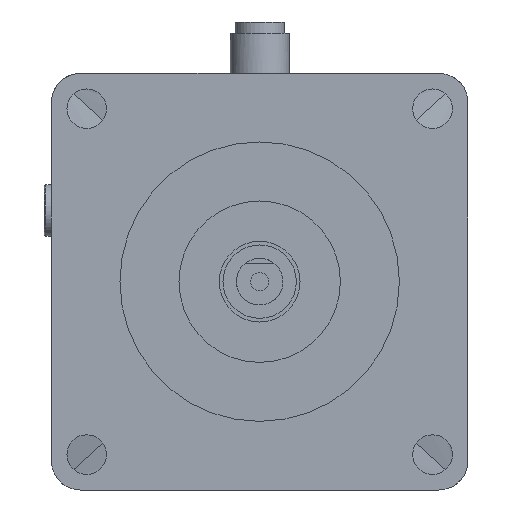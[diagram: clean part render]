
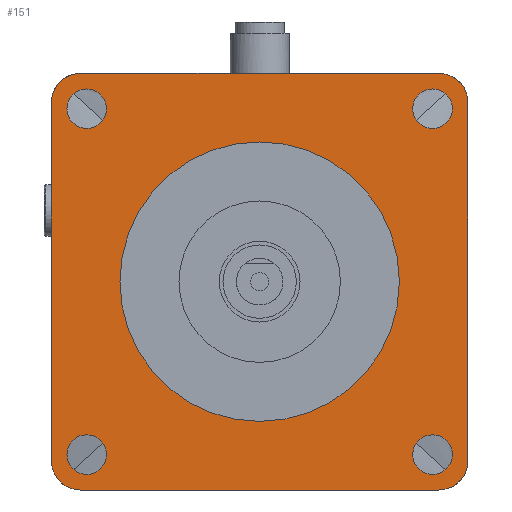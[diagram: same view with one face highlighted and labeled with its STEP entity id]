
A CAD part, front view. The second image highlights one B-rep face of the part: STEP entity #151.
In plain terms, the highlighted planar face has unit normal (0, -1, 0).
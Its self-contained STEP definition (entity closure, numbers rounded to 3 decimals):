
#151 = ADVANCED_FACE( '', ( #386, #387, #388, #389, #390, #391 ), #392, .T. );
#386 = FACE_BOUND( '', #747, .T. );
#387 = FACE_BOUND( '', #748, .T. );
#388 = FACE_BOUND( '', #749, .T. );
#389 = FACE_OUTER_BOUND( '', #750, .T. );
#390 = FACE_BOUND( '', #751, .T. );
#391 = FACE_BOUND( '', #752, .T. );
#392 = PLANE( '', #753 );
#747 = EDGE_LOOP( '', ( #1288 ) );
#748 = EDGE_LOOP( '', ( #1289 ) );
#749 = EDGE_LOOP( '', ( #1290 ) );
#750 = EDGE_LOOP( '', ( #1291, #1292, #1293, #1294, #1295, #1296, #1297, #1298 ) );
#751 = EDGE_LOOP( '', ( #1299 ) );
#752 = EDGE_LOOP( '', ( #1300 ) );
#753 = AXIS2_PLACEMENT_3D( '', #1301, #1302, #1303 );
#1288 = ORIENTED_EDGE( '', *, *, #1911, .T. );
#1289 = ORIENTED_EDGE( '', *, *, #1912, .T. );
#1290 = ORIENTED_EDGE( '', *, *, #1913, .F. );
#1291 = ORIENTED_EDGE( '', *, *, #1914, .T. );
#1292 = ORIENTED_EDGE( '', *, *, #1915, .T. );
#1293 = ORIENTED_EDGE( '', *, *, #1916, .T. );
#1294 = ORIENTED_EDGE( '', *, *, #1917, .T. );
#1295 = ORIENTED_EDGE( '', *, *, #1918, .T. );
#1296 = ORIENTED_EDGE( '', *, *, #1919, .T. );
#1297 = ORIENTED_EDGE( '', *, *, #1920, .T. );
#1298 = ORIENTED_EDGE( '', *, *, #1921, .T. );
#1299 = ORIENTED_EDGE( '', *, *, #1922, .T. );
#1300 = ORIENTED_EDGE( '', *, *, #1923, .T. );
#1301 = CARTESIAN_POINT( '', ( 201554., 5.5, 205146. ) );
#1302 = DIRECTION( '', ( 0., -1., 0. ) );
#1303 = DIRECTION( '', ( 0., 0., -1. ) );
#1911 = EDGE_CURVE( '', #2203, #2203, #2204, .T. );
#1912 = EDGE_CURVE( '', #2205, #2205, #2206, .T. );
#1913 = EDGE_CURVE( '', #2207, #2207, #2208, .T. );
#1914 = EDGE_CURVE( '', #2209, #2210, #2211, .T. );
#1915 = EDGE_CURVE( '', #2210, #2212, #2213, .T. );
#1916 = EDGE_CURVE( '', #2212, #2214, #2215, .T. );
#1917 = EDGE_CURVE( '', #2214, #2216, #2217, .T. );
#1918 = EDGE_CURVE( '', #2216, #2218, #2219, .T. );
#1919 = EDGE_CURVE( '', #2218, #2220, #2221, .T. );
#1920 = EDGE_CURVE( '', #2220, #2222, #2223, .T. );
#1921 = EDGE_CURVE( '', #2222, #2209, #2224, .T. );
#1922 = EDGE_CURVE( '', #2225, #2225, #2226, .T. );
#1923 = EDGE_CURVE( '', #2227, #2227, #2228, .T. );
#2203 = VERTEX_POINT( '', #2653 );
#2204 = CIRCLE( '', #2654, 2.7 );
#2205 = VERTEX_POINT( '', #2655 );
#2206 = CIRCLE( '', #2656, 2.7 );
#2207 = VERTEX_POINT( '', #2657 );
#2208 = CIRCLE( '', #2658, 19.05 );
#2209 = VERTEX_POINT( '', #2659 );
#2210 = VERTEX_POINT( '', #2660 );
#2211 = CIRCLE( '', #2661, 4. );
#2212 = VERTEX_POINT( '', #2662 );
#2213 = LINE( '', #2663, #2664 );
#2214 = VERTEX_POINT( '', #2665 );
#2215 = CIRCLE( '', #2666, 4. );
#2216 = VERTEX_POINT( '', #2667 );
#2217 = LINE( '', #2668, #2669 );
#2218 = VERTEX_POINT( '', #2670 );
#2219 = CIRCLE( '', #2671, 4. );
#2220 = VERTEX_POINT( '', #2672 );
#2221 = LINE( '', #2673, #2674 );
#2222 = VERTEX_POINT( '', #2675 );
#2223 = CIRCLE( '', #2676, 4. );
#2224 = LINE( '', #2677, #2678 );
#2225 = VERTEX_POINT( '', #2679 );
#2226 = CIRCLE( '', #2680, 2.7 );
#2227 = VERTEX_POINT( '', #2681 );
#2228 = CIRCLE( '', #2682, 2.7 );
#2653 = CARTESIAN_POINT( '', ( 201601.975, 5.5, 205142.475 ) );
#2654 = AXIS2_PLACEMENT_3D( '', #3302, #3303, #3304 );
#2655 = CARTESIAN_POINT( '', ( 201554.825, 5.5, 205095.325 ) );
#2656 = AXIS2_PLACEMENT_3D( '', #3305, #3306, #3307 );
#2657 = CARTESIAN_POINT( '', ( 201578.4, 5.5, 205102.55 ) );
#2658 = AXIS2_PLACEMENT_3D( '', #3308, #3309, #3310 );
#2659 = CARTESIAN_POINT( '', ( 201554., 5.5, 205150. ) );
#2660 = CARTESIAN_POINT( '', ( 201550., 5.5, 205146. ) );
#2661 = AXIS2_PLACEMENT_3D( '', #3311, #3312, #3313 );
#2662 = CARTESIAN_POINT( '', ( 201550., 5.5, 205097.2 ) );
#2663 = CARTESIAN_POINT( '', ( 201550., 5.5, 205146. ) );
#2664 = VECTOR( '', #3314, 1000. );
#2665 = CARTESIAN_POINT( '', ( 201554., 5.5, 205093.2 ) );
#2666 = AXIS2_PLACEMENT_3D( '', #3315, #3316, #3317 );
#2667 = CARTESIAN_POINT( '', ( 201602.8, 5.5, 205093.2 ) );
#2668 = CARTESIAN_POINT( '', ( 201554., 5.5, 205093.2 ) );
#2669 = VECTOR( '', #3318, 1000. );
#2670 = CARTESIAN_POINT( '', ( 201606.8, 5.5, 205097.2 ) );
#2671 = AXIS2_PLACEMENT_3D( '', #3319, #3320, #3321 );
#2672 = CARTESIAN_POINT( '', ( 201606.8, 5.5, 205146. ) );
#2673 = CARTESIAN_POINT( '', ( 201606.8, 5.5, 205097.2 ) );
#2674 = VECTOR( '', #3322, 1000. );
#2675 = CARTESIAN_POINT( '', ( 201602.8, 5.5, 205150. ) );
#2676 = AXIS2_PLACEMENT_3D( '', #3323, #3324, #3325 );
#2677 = CARTESIAN_POINT( '', ( 201602.8, 5.5, 205150. ) );
#2678 = VECTOR( '', #3326, 1000. );
#2679 = CARTESIAN_POINT( '', ( 201554.825, 5.5, 205142.475 ) );
#2680 = AXIS2_PLACEMENT_3D( '', #3327, #3328, #3329 );
#2681 = CARTESIAN_POINT( '', ( 201601.975, 5.5, 205095.325 ) );
#2682 = AXIS2_PLACEMENT_3D( '', #3330, #3331, #3332 );
#3302 = CARTESIAN_POINT( '', ( 201601.975, 5.5, 205145.175 ) );
#3303 = DIRECTION( '', ( 0., 1., 0. ) );
#3304 = DIRECTION( '', ( 0., 0., -1. ) );
#3305 = CARTESIAN_POINT( '', ( 201554.825, 5.5, 205098.025 ) );
#3306 = DIRECTION( '', ( 0., 1., 0. ) );
#3307 = DIRECTION( '', ( 0., 0., -1. ) );
#3308 = CARTESIAN_POINT( '', ( 201578.4, 5.5, 205121.6 ) );
#3309 = DIRECTION( '', ( 0., -1., 0. ) );
#3310 = DIRECTION( '', ( 0., 0., -1. ) );
#3311 = CARTESIAN_POINT( '', ( 201554., 5.5, 205146. ) );
#3312 = DIRECTION( '', ( 0., -1., 0. ) );
#3313 = DIRECTION( '', ( 0., 0., -1. ) );
#3314 = DIRECTION( '', ( 0., 0., -1. ) );
#3315 = CARTESIAN_POINT( '', ( 201554., 5.5, 205097.2 ) );
#3316 = DIRECTION( '', ( 0., -1., 0. ) );
#3317 = DIRECTION( '', ( 0., 0., 1. ) );
#3318 = DIRECTION( '', ( 1., 0., 0. ) );
#3319 = CARTESIAN_POINT( '', ( 201602.8, 5.5, 205097.2 ) );
#3320 = DIRECTION( '', ( 0., -1., 0. ) );
#3321 = DIRECTION( '', ( 0., 0., -1. ) );
#3322 = DIRECTION( '', ( 0., 0., 1. ) );
#3323 = CARTESIAN_POINT( '', ( 201602.8, 5.5, 205146. ) );
#3324 = DIRECTION( '', ( 0., -1., 0. ) );
#3325 = DIRECTION( '', ( 0., 0., -1. ) );
#3326 = DIRECTION( '', ( -1., 0., 0. ) );
#3327 = CARTESIAN_POINT( '', ( 201554.825, 5.5, 205145.175 ) );
#3328 = DIRECTION( '', ( 0., 1., 0. ) );
#3329 = DIRECTION( '', ( 0., 0., -1. ) );
#3330 = CARTESIAN_POINT( '', ( 201601.975, 5.5, 205098.025 ) );
#3331 = DIRECTION( '', ( 0., 1., 0. ) );
#3332 = DIRECTION( '', ( 0., 0., -1. ) );
